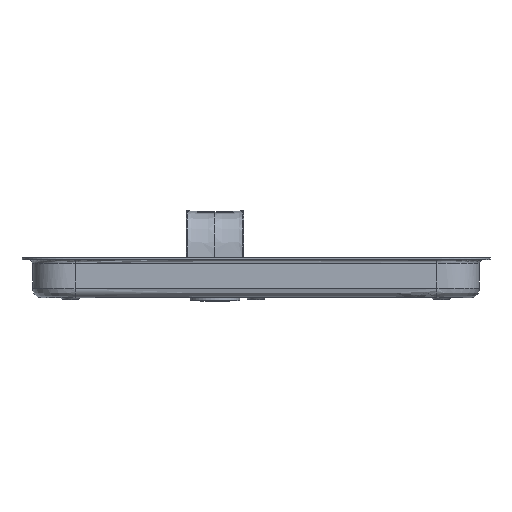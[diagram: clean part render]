
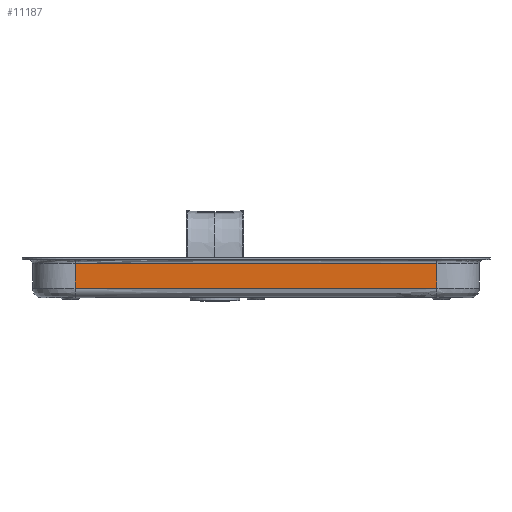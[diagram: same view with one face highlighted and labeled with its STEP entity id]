
A CAD part, left-side view. The second image highlights one B-rep face of the part: STEP entity #11187.
In plain terms, the highlighted free-form (B-spline) face has degree [2, 1] with [3, 2] control points.
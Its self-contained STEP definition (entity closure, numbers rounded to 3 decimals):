
#268=B_SPLINE_SURFACE_WITH_KNOTS('',2,1,((#28267,#28268),(#28269,#28270),
(#28271,#28272)),.UNSPECIFIED.,.F.,.F.,.F.,(3,3),(2,2),(-1.,0.),(0.,2.4),
 .UNSPECIFIED.);
#725=B_SPLINE_CURVE_WITH_KNOTS('',3,(#27441,#27442,#27443,#27444),
 .UNSPECIFIED.,.F.,.F.,(4,4),(0.,18.943),.UNSPECIFIED.);
#743=B_SPLINE_CURVE_WITH_KNOTS('',2,(#28273,#28274,#28275),
 .UNSPECIFIED.,.F.,.F.,(3,3),(0.,18.943),.UNSPECIFIED.);
#1830=LINE('',#28185,#2709);
#1832=LINE('',#28253,#2711);
#2709=VECTOR('',#13565,10.);
#2711=VECTOR('',#13567,10.);
#3292=FACE_OUTER_BOUND('',#3979,.T.);
#3979=EDGE_LOOP('',(#9620,#9621,#9622,#9623));
#5106=VERTEX_POINT('',#27403);
#5107=VERTEX_POINT('',#27440);
#5119=VERTEX_POINT('',#28135);
#5120=VERTEX_POINT('',#28203);
#6594=EDGE_CURVE('',#5107,#5106,#725,.T.);
#6623=EDGE_CURVE('',#5119,#5106,#1830,.T.);
#6626=EDGE_CURVE('',#5107,#5120,#1832,.T.);
#6630=EDGE_CURVE('',#5119,#5120,#743,.T.);
#9620=ORIENTED_EDGE('',*,*,#6630,.T.);
#9621=ORIENTED_EDGE('',*,*,#6626,.F.);
#9622=ORIENTED_EDGE('',*,*,#6594,.T.);
#9623=ORIENTED_EDGE('',*,*,#6623,.F.);
#11187=ADVANCED_FACE('',(#3292),#268,.T.);
#13565=DIRECTION('',(0.,0.,1.));
#13567=DIRECTION('',(0.,0.,-1.));
#27403=CARTESIAN_POINT('',(-112.996,109.085,7.985));
#27440=CARTESIAN_POINT('',(-112.996,-80.347,7.985));
#27441=CARTESIAN_POINT('Ctrl Pts',(-112.996,-80.347,
7.985));
#27442=CARTESIAN_POINT('Ctrl Pts',(-112.996,-17.203,
7.985));
#27443=CARTESIAN_POINT('Ctrl Pts',(-112.996,45.941,7.985));
#27444=CARTESIAN_POINT('Ctrl Pts',(-112.996,109.085,7.985));
#28135=CARTESIAN_POINT('',(-112.996,109.085,-5.015));
#28185=CARTESIAN_POINT('',(-112.996,109.085,-5.015));
#28203=CARTESIAN_POINT('',(-112.996,-80.347,-5.015));
#28253=CARTESIAN_POINT('',(-112.996,-80.347,7.985));
#28267=CARTESIAN_POINT('Ctrl Pts',(-112.996,-80.347,
9.985));
#28268=CARTESIAN_POINT('Ctrl Pts',(-112.996,-80.347,
-14.015));
#28269=CARTESIAN_POINT('Ctrl Pts',(-112.996,14.369,9.985));
#28270=CARTESIAN_POINT('Ctrl Pts',(-112.996,14.369,-14.015));
#28271=CARTESIAN_POINT('Ctrl Pts',(-112.996,109.085,9.985));
#28272=CARTESIAN_POINT('Ctrl Pts',(-112.996,109.085,-14.015));
#28273=CARTESIAN_POINT('Ctrl Pts',(-112.996,109.085,-5.015));
#28274=CARTESIAN_POINT('Ctrl Pts',(-112.996,14.369,-5.015));
#28275=CARTESIAN_POINT('Ctrl Pts',(-112.996,-80.347,
-5.015));
